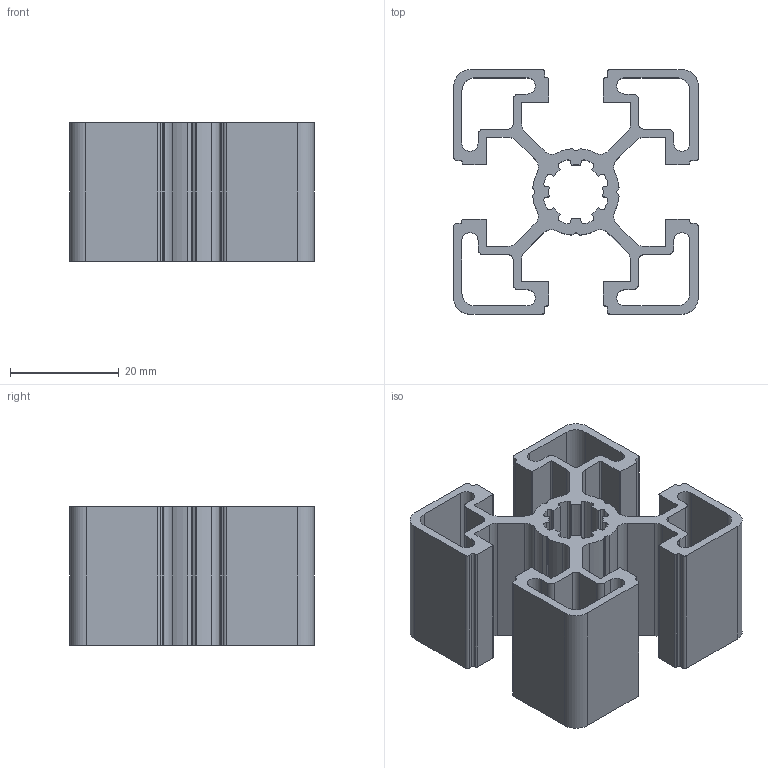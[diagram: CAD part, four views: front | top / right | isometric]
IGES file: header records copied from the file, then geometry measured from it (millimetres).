
Global section: file name: C:\Documents and Settings\Administrator\Desktop\Transfer Temp\bosch4545.igs; native system: AutoDesk Inventor R2.0 ; preprocessor: AutoDesk Inventor Iges Exporter R2.0; author: No Author specified; organization: No Organization specified; date: 20020117.162826; units: millimetre
Bounding box: 45.04 x 45 x 25.4 mm (x, y, z)
Surface area: 16352.7 mm2 (no closed solid volume)
Topology: 0 solids, 0 shells, 241 faces, 1434 edges, 1434 vertices
Faces by surface type: revolution 135, bspline 106
